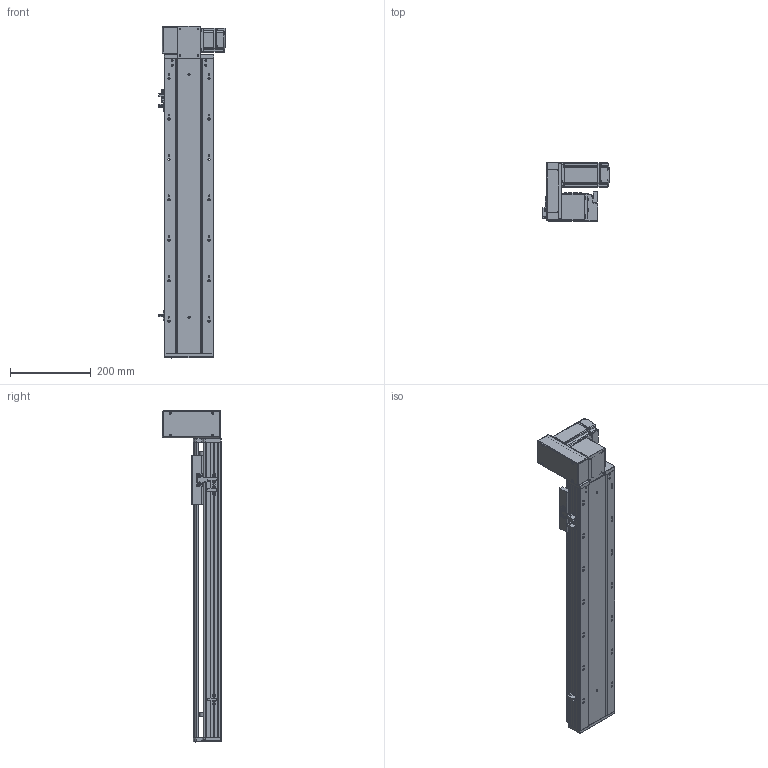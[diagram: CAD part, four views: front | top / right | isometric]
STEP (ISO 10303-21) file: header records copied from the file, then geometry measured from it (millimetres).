
FILE_DESCRIPTION (( 'STEP AP203' ), '1' );
FILE_NAME ('RY120-T-300-UL.SLDASM_500.step', '2021-03-01T05:35:22', ( '盈信电脑' ), ( '东莞市道滘镇水果街19号' ), 'SwSTEP 2.0', 'SolidWorks 2012', '' );
FILE_SCHEMA (( 'CONFIG_CONTROL_DESIGN' ));
Products named in the file (18): RY120-T翋肮祭謫裔啣; RY120-T-300-UL.SLDASM_500; RY120-T蹟翐M4; RY120-T萇儂欶; RY120-T主同步轮轴承压盖; 侂狟400W侜督萇儂; 滅袉蝶18-10; 15; RY120-T萇儂假蚾啣; RY120-T翋肮祭盓傅釱; RY120外置感应片(140共用）; RY120-T肮祭湍揤踡輸1; 覜茼ん672; RY120-T肮祭湍揤踡輸2; RY120肮祭湍臏賑輸; RY120綴裔啣; RY120-T-300-UL倰第奻裔啣_500; RY120-T-300-UL倰第菁釱_500
Assembly tree (23 placements, depth 3):
  RY120-T-300-UL.SLDASM_500
    RY120-T-300-UL倰第菁釱_500
    RY120-T-300-UL倰第奻裔啣_500
    RY120肮祭湍臏賑輸
    RY120綴裔啣
    覜茼ん672  x3
    RY120外置感应片(140共用）
    RY120-T肮祭湍揤踡輸1
    RY120-T肮祭湍揤踡輸2
    RY120-T翋肮祭盓傅釱
    RY120-T萇儂假蚾啣
    侂狟400W侜督萇儂
      15
    RY120-T主同步轮轴承压盖
    滅袉蝶18-10  x2
    RY120-T萇儂欶
    RY120-T蹟翐M4  x4
    RY120-T翋肮祭謫裔啣
Bounding box: 164.2 x 146 x 821 mm (x, y, z)
Volume: 2519477.8 mm3; surface area: 917515.2 mm2
Topology: 23 solids, 23 shells, 2748 faces, 7500 edges, 4830 vertices
Faces by surface type: plane 1412, cylinder 1030, cone 217, bspline 89
Entity records: 87746 total; most frequent: CARTESIAN_POINT 22358, ORIENTED_EDGE 13488, DIRECTION 12706, EDGE_CURVE 6744, VERTEX_POINT 4417, LINE 4240, VECTOR 4240, AXIS2_PLACEMENT_3D 4233
